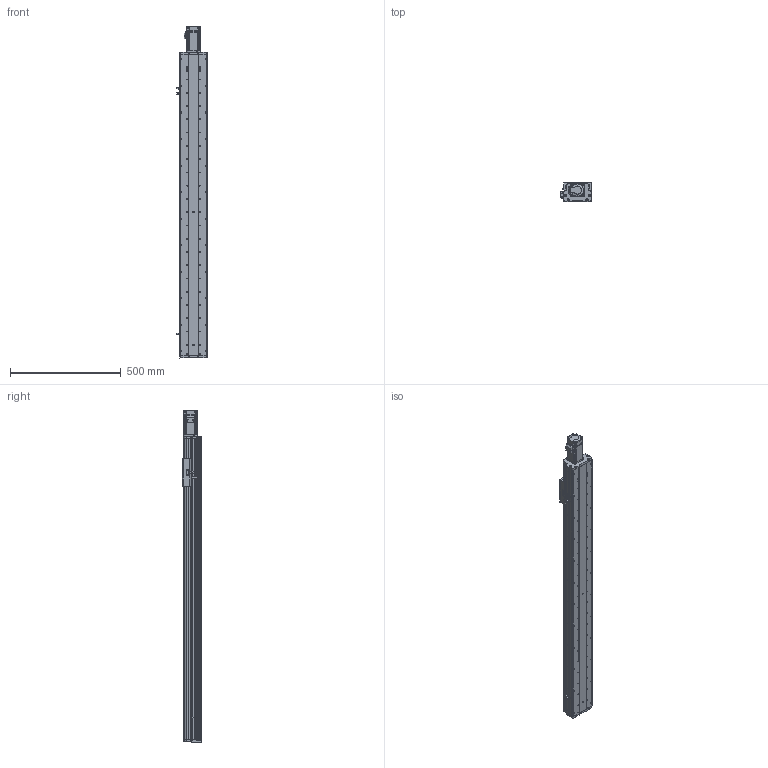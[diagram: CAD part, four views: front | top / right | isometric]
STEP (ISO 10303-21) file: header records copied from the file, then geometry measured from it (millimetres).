
FILE_DESCRIPTION (( 'STEP AP214' ), '1' );
FILE_NAME ('KSD125S-S1100-MN-CM.STEP', '2017-08-07T06:27:52', ( '微软用户' ), ( '微软中国' ), 'SwSTEP 2.0', 'SolidWorks 2014', '' );
FILE_SCHEMA (( 'AUTOMOTIVE_DESIGN' ));
Length unit declared in the file: millimetre
Products named in the file (12): KSD125S-S1100-MN-CM; KSD125S-1100行程丝杆防尘盖-直连不带电机座; KSD125S-1100行程丝杆底板-直连不带电机座; 125宽模组 - 直连不带电机座电机安装板; MHMD042G1CA_2_03; 拸萇儂釱滅袉菜; 覜茼え68遵圉猾敕; U倰嫖萇假蚾璃; U倰嫖萇EEㄜSX672; KSD125-賑雄釱1; CS-34X32-10X14; 125-帣傷啣1
Assembly tree (15 placements, depth 2):
  KSD125S-S1100-MN-CM
    125-帣傷啣1
    CS-34X32-10X14
    KSD125-賑雄釱1
    U倰嫖萇EEㄜSX672  x3
    U倰嫖萇假蚾璃  x3
    覜茼え68遵圉猾敕
    拸萇儂釱滅袉菜
    MHMD042G1CA_2_03
    125宽模组 - 直连不带电机座电机安装板
    KSD125S-1100行程丝杆底板-直连不带电机座
    KSD125S-1100行程丝杆防尘盖-直连不带电机座
Bounding box: 138.7 x 86 x 1501.5 mm (x, y, z)
Volume: 4252242.4 mm3; surface area: 1385807.3 mm2
Topology: 14 solids, 17 shells, 1536 faces, 4455 edges, 2933 vertices
Faces by surface type: cylinder 796, plane 627, cone 91, bspline 22
Entity records: 54600 total; most frequent: CARTESIAN_POINT 11574, DIRECTION 7767, ORIENTED_EDGE 7418, EDGE_CURVE 3787, AXIS2_PLACEMENT_3D 2876, VERTEX_POINT 2525, VECTOR 2015, LINE 2015
